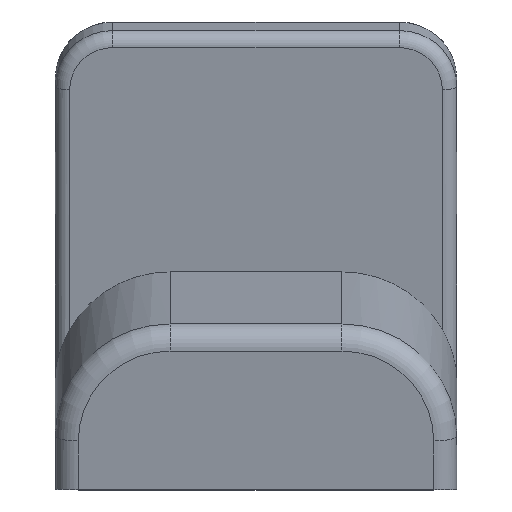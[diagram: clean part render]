
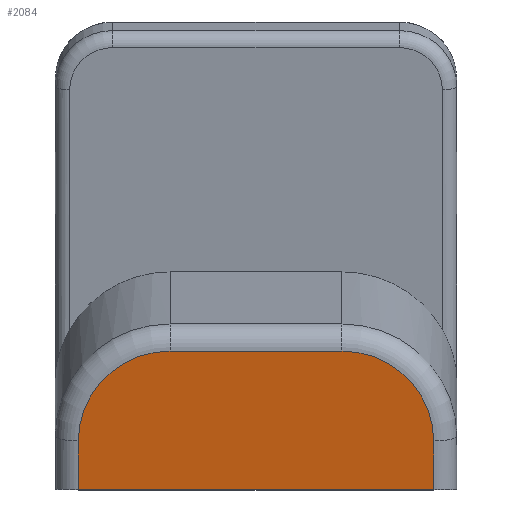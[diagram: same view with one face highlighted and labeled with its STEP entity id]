
A CAD part, top view. The second image highlights one B-rep face of the part: STEP entity #2084.
In plain terms, the highlighted planar face has unit normal (0, -0.208, 0.978).
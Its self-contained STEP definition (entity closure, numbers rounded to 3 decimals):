
#184 = CYLINDRICAL_SURFACE('',#185,0.8);
#185 = AXIS2_PLACEMENT_3D('',#186,#187,#188);
#186 = CARTESIAN_POINT('',(-6.2,1.859,32.901));
#187 = DIRECTION('',(-0.,-0.978,-0.208));
#188 = DIRECTION('',(0.,-0.208,0.978));
#212 = PLANE('',#213);
#213 = AXIS2_PLACEMENT_3D('',#214,#215,#216);
#214 = CARTESIAN_POINT('',(-100.,0.,-100.));
#215 = DIRECTION('',(0.,1.,0.));
#216 = DIRECTION('',(0.,0.,1.));
#648 = VERTEX_POINT('',#649);
#649 = CARTESIAN_POINT('',(-6.2,0.,33.324));
#676 = EDGE_CURVE('',#677,#648,#679,.T.);
#677 = VERTEX_POINT('',#678);
#678 = CARTESIAN_POINT('',(6.2,0.,33.324));
#679 = SURFACE_CURVE('',#680,(#684,#691),.PCURVE_S1.);
#680 = LINE('',#681,#682);
#681 = CARTESIAN_POINT('',(-53.5,0.,33.324));
#682 = VECTOR('',#683,1.);
#683 = DIRECTION('',(-1.,0.,0.));
#684 = PCURVE('',#212,#685);
#685 = DEFINITIONAL_REPRESENTATION('',(#686),#690);
#686 = LINE('',#687,#688);
#687 = CARTESIAN_POINT('',(133.324,46.5));
#688 = VECTOR('',#689,1.);
#689 = DIRECTION('',(0.,-1.));
#690 = ( GEOMETRIC_REPRESENTATION_CONTEXT(2) 
PARAMETRIC_REPRESENTATION_CONTEXT() REPRESENTATION_CONTEXT('2D SPACE',''
  ) );
#691 = PCURVE('',#692,#697);
#692 = PLANE('',#693);
#693 = AXIS2_PLACEMENT_3D('',#694,#695,#696);
#694 = CARTESIAN_POINT('',(-7.,-6.133,32.02));
#695 = DIRECTION('',(0.,-0.208,0.978));
#696 = DIRECTION('',(1.,0.,0.));
#697 = DEFINITIONAL_REPRESENTATION('',(#698),#702);
#698 = LINE('',#699,#700);
#699 = CARTESIAN_POINT('',(-46.5,6.27));
#700 = VECTOR('',#701,1.);
#701 = DIRECTION('',(-1.,0.));
#702 = ( GEOMETRIC_REPRESENTATION_CONTEXT(2) 
PARAMETRIC_REPRESENTATION_CONTEXT() REPRESENTATION_CONTEXT('2D SPACE',''
  ) );
#721 = CYLINDRICAL_SURFACE('',#722,0.8);
#722 = AXIS2_PLACEMENT_3D('',#723,#724,#725);
#723 = CARTESIAN_POINT('',(6.2,-2.054,32.069));
#724 = DIRECTION('',(0.,0.978,0.208));
#725 = DIRECTION('',(0.,-0.208,0.978));
#987 = EDGE_CURVE('',#988,#648,#990,.T.);
#988 = VERTEX_POINT('',#989);
#989 = CARTESIAN_POINT('',(-6.2,1.693,33.683));
#990 = SURFACE_CURVE('',#991,(#995,#1002),.PCURVE_S1.);
#991 = LINE('',#992,#993);
#992 = CARTESIAN_POINT('',(-6.2,1.693,33.683));
#993 = VECTOR('',#994,1.);
#994 = DIRECTION('',(-0.,-0.978,-0.208));
#995 = PCURVE('',#184,#996);
#996 = DEFINITIONAL_REPRESENTATION('',(#997),#1001);
#997 = LINE('',#998,#999);
#998 = CARTESIAN_POINT('',(0.,0.));
#999 = VECTOR('',#1000,1.);
#1000 = DIRECTION('',(0.,1.));
#1001 = ( GEOMETRIC_REPRESENTATION_CONTEXT(2) 
PARAMETRIC_REPRESENTATION_CONTEXT() REPRESENTATION_CONTEXT('2D SPACE',''
  ) );
#1002 = PCURVE('',#692,#1003);
#1003 = DEFINITIONAL_REPRESENTATION('',(#1004),#1008);
#1004 = LINE('',#1005,#1006);
#1005 = CARTESIAN_POINT('',(0.8,8.));
#1006 = VECTOR('',#1007,1.);
#1007 = DIRECTION('',(0.,-1.));
#1008 = ( GEOMETRIC_REPRESENTATION_CONTEXT(2) 
PARAMETRIC_REPRESENTATION_CONTEXT() REPRESENTATION_CONTEXT('2D SPACE',''
  ) );
#1025 = TOROIDAL_SURFACE('',#1026,3.2,0.8);
#1026 = AXIS2_PLACEMENT_3D('',#1027,#1028,#1029);
#1027 = CARTESIAN_POINT('',(-3.,1.859,32.901));
#1028 = DIRECTION('',(-0.,0.208,-0.978));
#1029 = DIRECTION('',(0.,0.978,0.208)
  );
#2033 = EDGE_CURVE('',#677,#2034,#2036,.T.);
#2034 = VERTEX_POINT('',#2035);
#2035 = CARTESIAN_POINT('',(6.2,1.693,33.683));
#2036 = SURFACE_CURVE('',#2037,(#2041,#2048),.PCURVE_S1.);
#2037 = LINE('',#2038,#2039);
#2038 = CARTESIAN_POINT('',(6.2,-2.22,32.852));
#2039 = VECTOR('',#2040,1.);
#2040 = DIRECTION('',(0.,0.978,0.208));
#2041 = PCURVE('',#721,#2042);
#2042 = DEFINITIONAL_REPRESENTATION('',(#2043),#2047);
#2043 = LINE('',#2044,#2045);
#2044 = CARTESIAN_POINT('',(0.,0.));
#2045 = VECTOR('',#2046,1.);
#2046 = DIRECTION('',(0.,1.));
#2047 = ( GEOMETRIC_REPRESENTATION_CONTEXT(2) 
PARAMETRIC_REPRESENTATION_CONTEXT() REPRESENTATION_CONTEXT('2D SPACE',''
  ) );
#2048 = PCURVE('',#692,#2049);
#2049 = DEFINITIONAL_REPRESENTATION('',(#2050),#2054);
#2050 = LINE('',#2051,#2052);
#2051 = CARTESIAN_POINT('',(13.2,4.));
#2052 = VECTOR('',#2053,1.);
#2053 = DIRECTION('',(0.,1.));
#2054 = ( GEOMETRIC_REPRESENTATION_CONTEXT(2) 
PARAMETRIC_REPRESENTATION_CONTEXT() REPRESENTATION_CONTEXT('2D SPACE',''
  ) );
#2073 = TOROIDAL_SURFACE('',#2074,3.2,0.8);
#2074 = AXIS2_PLACEMENT_3D('',#2075,#2076,#2077);
#2075 = CARTESIAN_POINT('',(3.,1.859,32.901));
#2076 = DIRECTION('',(-0.,0.208,-0.978));
#2077 = DIRECTION('',(1.,0.,0.));
#2084 = ADVANCED_FACE('',(#2085),#692,.T.);
#2085 = FACE_BOUND('',#2086,.T.);
#2086 = EDGE_LOOP('',(#2087,#2088,#2112,#2140,#2162,#2163));
#2087 = ORIENTED_EDGE('',*,*,#2033,.T.);
#2088 = ORIENTED_EDGE('',*,*,#2089,.T.);
#2089 = EDGE_CURVE('',#2034,#2090,#2092,.T.);
#2090 = VERTEX_POINT('',#2091);
#2091 = CARTESIAN_POINT('',(3.,4.823,34.349));
#2092 = SURFACE_CURVE('',#2093,(#2098,#2105),.PCURVE_S1.);
#2093 = CIRCLE('',#2094,3.2);
#2094 = AXIS2_PLACEMENT_3D('',#2095,#2096,#2097);
#2095 = CARTESIAN_POINT('',(3.,1.693,33.683));
#2096 = DIRECTION('',(0.,-0.208,0.978));
#2097 = DIRECTION('',(1.,0.,0.));
#2098 = PCURVE('',#692,#2099);
#2099 = DEFINITIONAL_REPRESENTATION('',(#2100),#2104);
#2100 = CIRCLE('',#2101,3.2);
#2101 = AXIS2_PLACEMENT_2D('',#2102,#2103);
#2102 = CARTESIAN_POINT('',(10.,8.));
#2103 = DIRECTION('',(1.,0.));
#2104 = ( GEOMETRIC_REPRESENTATION_CONTEXT(2) 
PARAMETRIC_REPRESENTATION_CONTEXT() REPRESENTATION_CONTEXT('2D SPACE',''
  ) );
#2105 = PCURVE('',#2073,#2106);
#2106 = DEFINITIONAL_REPRESENTATION('',(#2107),#2111);
#2107 = LINE('',#2108,#2109);
#2108 = CARTESIAN_POINT('',(-0.,4.712));
#2109 = VECTOR('',#2110,1.);
#2110 = DIRECTION('',(-1.,0.));
#2111 = ( GEOMETRIC_REPRESENTATION_CONTEXT(2) 
PARAMETRIC_REPRESENTATION_CONTEXT() REPRESENTATION_CONTEXT('2D SPACE',''
  ) );
#2112 = ORIENTED_EDGE('',*,*,#2113,.T.);
#2113 = EDGE_CURVE('',#2090,#2114,#2116,.T.);
#2114 = VERTEX_POINT('',#2115);
#2115 = CARTESIAN_POINT('',(-3.,4.823,34.349));
#2116 = SURFACE_CURVE('',#2117,(#2121,#2128),.PCURVE_S1.);
#2117 = LINE('',#2118,#2119);
#2118 = CARTESIAN_POINT('',(3.,4.823,34.349));
#2119 = VECTOR('',#2120,1.);
#2120 = DIRECTION('',(-1.,0.,-0.));
#2121 = PCURVE('',#692,#2122);
#2122 = DEFINITIONAL_REPRESENTATION('',(#2123),#2127);
#2123 = LINE('',#2124,#2125);
#2124 = CARTESIAN_POINT('',(10.,11.2));
#2125 = VECTOR('',#2126,1.);
#2126 = DIRECTION('',(-1.,0.));
#2127 = ( GEOMETRIC_REPRESENTATION_CONTEXT(2) 
PARAMETRIC_REPRESENTATION_CONTEXT() REPRESENTATION_CONTEXT('2D SPACE',''
  ) );
#2128 = PCURVE('',#2129,#2134);
#2129 = CYLINDRICAL_SURFACE('',#2130,0.8);
#2130 = AXIS2_PLACEMENT_3D('',#2131,#2132,#2133);
#2131 = CARTESIAN_POINT('',(3.,4.989,33.566));
#2132 = DIRECTION('',(-1.,0.,-0.));
#2133 = DIRECTION('',(0.,-0.208,0.978));
#2134 = DEFINITIONAL_REPRESENTATION('',(#2135),#2139);
#2135 = LINE('',#2136,#2137);
#2136 = CARTESIAN_POINT('',(0.,0.));
#2137 = VECTOR('',#2138,1.);
#2138 = DIRECTION('',(0.,1.));
#2139 = ( GEOMETRIC_REPRESENTATION_CONTEXT(2) 
PARAMETRIC_REPRESENTATION_CONTEXT() REPRESENTATION_CONTEXT('2D SPACE',''
  ) );
#2140 = ORIENTED_EDGE('',*,*,#2141,.T.);
#2141 = EDGE_CURVE('',#2114,#988,#2142,.T.);
#2142 = SURFACE_CURVE('',#2143,(#2148,#2155),.PCURVE_S1.);
#2143 = CIRCLE('',#2144,3.2);
#2144 = AXIS2_PLACEMENT_3D('',#2145,#2146,#2147);
#2145 = CARTESIAN_POINT('',(-3.,1.693,33.683));
#2146 = DIRECTION('',(0.,-0.208,0.978)
  );
#2147 = DIRECTION('',(0.,0.978,0.208)
  );
#2148 = PCURVE('',#692,#2149);
#2149 = DEFINITIONAL_REPRESENTATION('',(#2150),#2154);
#2150 = CIRCLE('',#2151,3.2);
#2151 = AXIS2_PLACEMENT_2D('',#2152,#2153);
#2152 = CARTESIAN_POINT('',(4.,8.));
#2153 = DIRECTION('',(0.,1.));
#2154 = ( GEOMETRIC_REPRESENTATION_CONTEXT(2) 
PARAMETRIC_REPRESENTATION_CONTEXT() REPRESENTATION_CONTEXT('2D SPACE',''
  ) );
#2155 = PCURVE('',#1025,#2156);
#2156 = DEFINITIONAL_REPRESENTATION('',(#2157),#2161);
#2157 = LINE('',#2158,#2159);
#2158 = CARTESIAN_POINT('',(-0.,4.712));
#2159 = VECTOR('',#2160,1.);
#2160 = DIRECTION('',(-1.,0.));
#2161 = ( GEOMETRIC_REPRESENTATION_CONTEXT(2) 
PARAMETRIC_REPRESENTATION_CONTEXT() REPRESENTATION_CONTEXT('2D SPACE',''
  ) );
#2162 = ORIENTED_EDGE('',*,*,#987,.T.);
#2163 = ORIENTED_EDGE('',*,*,#676,.F.);
